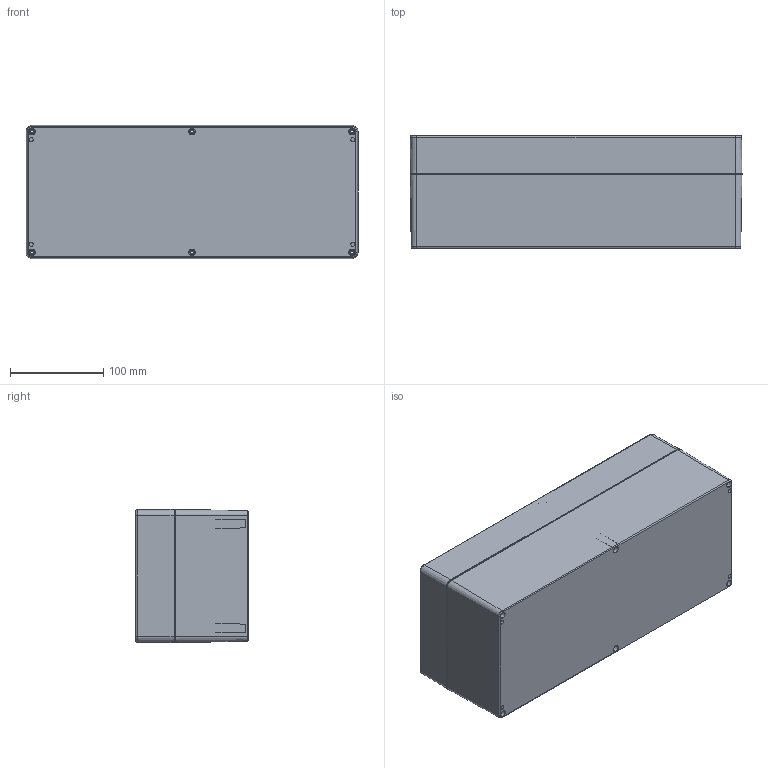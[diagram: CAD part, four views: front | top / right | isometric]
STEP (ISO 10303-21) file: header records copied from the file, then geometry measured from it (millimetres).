
FILE_DESCRIPTION (( 'STEP AP203' ), '1' );
FILE_NAME ('PE266.STEP', '2020-01-25T06:05:54', ( '' ), ( '' ), 'SwSTEP 2.0', 'SolidWorks 2020', '' );
FILE_SCHEMA (( 'CONFIG_CONTROL_DESIGN' ));
Length unit declared in the file: millimetre
Products named in the file (4): PE266
Assembly tree (3 placements, depth 2):
  PE266
    PE266
    PE266
    PE266
Bounding box: 355.2 x 120.3 x 142.6 mm (x, y, z)
Volume: 862553.9 mm3; surface area: 567384.4 mm2
Topology: 13 solids, 13 shells, 1782 faces, 4639 edges, 3014 vertices
Faces by surface type: bspline 568, cylinder 552, plane 340, cone 314, torus 8
Entity records: 61757 total; most frequent: CARTESIAN_POINT 20505, ORIENTED_EDGE 9252, DIRECTION 7565, EDGE_CURVE 4626, VERTEX_POINT 3014, AXIS2_PLACEMENT_3D 2886, EDGE_LOOP 2028, LINE 1793
